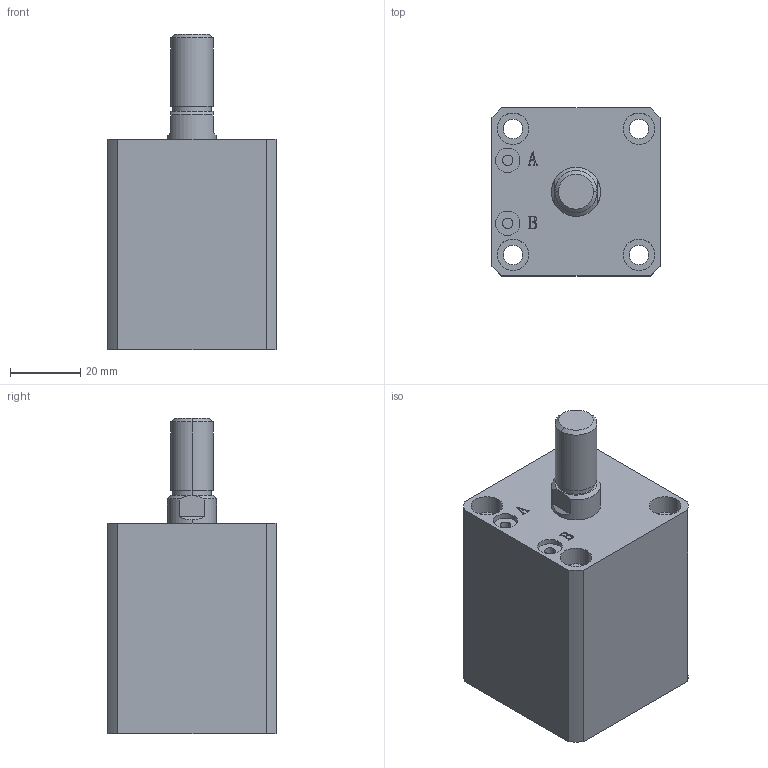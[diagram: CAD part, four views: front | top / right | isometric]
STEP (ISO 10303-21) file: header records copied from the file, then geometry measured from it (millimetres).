
FILE_DESCRIPTION (( 'STEP AP203' ), '1' );
FILE_NAME ('HTB-SDMA25-15W.STEP', '2019-10-07T10:51:15', ( '微软用户' ), ( '微软中国' ), 'SwSTEP 2.0', 'SolidWorks 2012', '' );
FILE_SCHEMA (( 'CONFIG_CONTROL_DESIGN' ));
Length unit declared in the file: millimetre
Products named in the file (3): HTB-SDMA25-15W; HTB-SDMA25-15W活塞杆; HTB-SDMA25-15掛极
Assembly tree (2 placements, depth 2):
  HTB-SDMA25-15W
    HTB-SDMA25-15掛极
    HTB-SDMA25-15W活塞杆
Bounding box: 48 x 48 x 90 mm (x, y, z)
Volume: 127943.8 mm3; surface area: 29428.6 mm2
Topology: 2 solids, 2 shells, 141 faces, 335 edges, 220 vertices
Faces by surface type: plane 67, cylinder 48, bspline 16, torus 6, cone 4
Entity records: 5178 total; most frequent: CARTESIAN_POINT 1609, ORIENTED_EDGE 670, DIRECTION 667, EDGE_CURVE 335, AXIS2_PLACEMENT_3D 242, VERTEX_POINT 220, LINE 183, VECTOR 183
